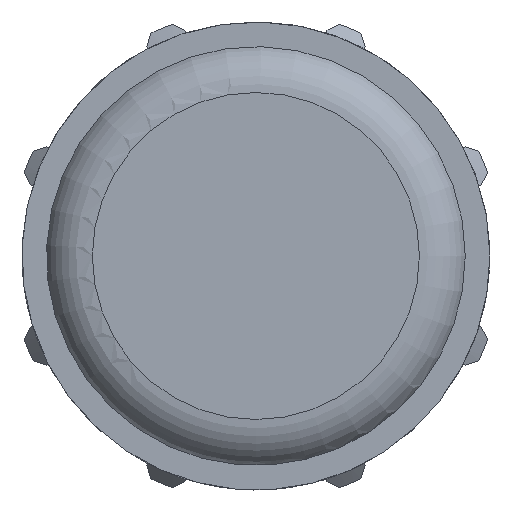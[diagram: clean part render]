
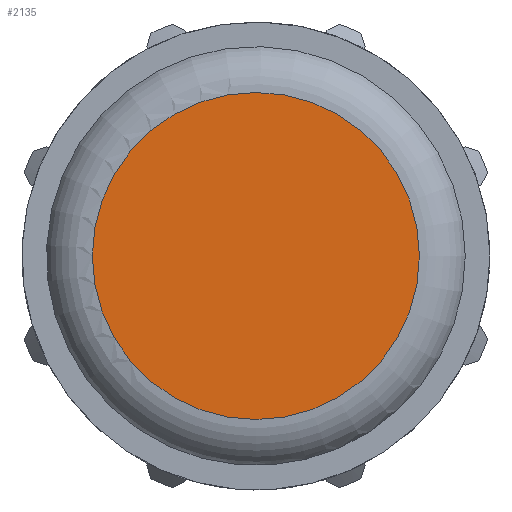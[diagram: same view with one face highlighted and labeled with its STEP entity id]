
A CAD part, left-side view. The second image highlights one B-rep face of the part: STEP entity #2135.
In plain terms, the highlighted planar face has unit normal (-1, 0, 0).
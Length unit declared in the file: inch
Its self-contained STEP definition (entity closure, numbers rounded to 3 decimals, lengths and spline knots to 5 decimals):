
#94=PLANE('',#2282);
#487=FACE_OUTER_BOUND('',#602,.T.);
#602=EDGE_LOOP('',(#1387));
#732=CIRCLE('',#2278,1.98488);
#841=VERTEX_POINT('',#3115);
#1058=EDGE_CURVE('',#841,#841,#732,.T.);
#1387=ORIENTED_EDGE('',*,*,#1058,.F.);
#2135=ADVANCED_FACE('',(#487),#94,.T.);
#2278=AXIS2_PLACEMENT_3D('',#3116,#2518,#2519);
#2282=AXIS2_PLACEMENT_3D('',#3122,#2526,#2527);
#2518=DIRECTION('center_axis',(1.,0.,0.));
#2519=DIRECTION('ref_axis',(0.,1.,0.));
#2526=DIRECTION('center_axis',(-1.,0.,0.));
#2527=DIRECTION('ref_axis',(0.,0.,1.));
#3115=CARTESIAN_POINT('',(0.,-1.98488,0.00085));
#3116=CARTESIAN_POINT('Origin',(0.,0.,0.));
#3122=CARTESIAN_POINT('Origin',(0.,2.5415,0.));
